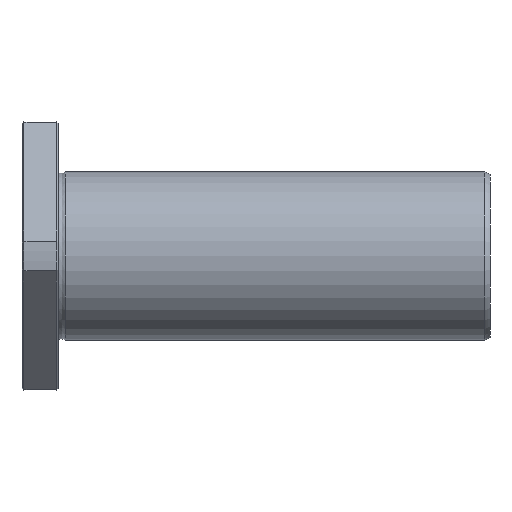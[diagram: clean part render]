
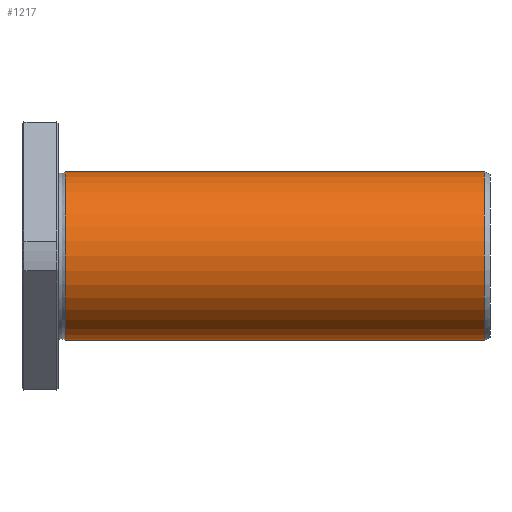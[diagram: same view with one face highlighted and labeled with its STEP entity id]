
A CAD part, front view. The second image highlights one B-rep face of the part: STEP entity #1217.
In plain terms, the highlighted cylindrical face has radius 30 mm (diameter 60 mm), a full revolution.
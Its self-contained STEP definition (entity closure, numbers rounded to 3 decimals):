
#1183=CARTESIAN_POINT('',(165.016,0.0,30.));
#1184=VERTEX_POINT('',#1183);
#1185=CARTESIAN_POINT('',(165.016,0.0,0.0));
#1186=DIRECTION('',(-1.0,0.0,0.0));
#1187=DIRECTION('',(0.0,0.0,1.0));
#1188=AXIS2_PLACEMENT_3D('',#1185,#1186,#1187);
#1189=CIRCLE('',#1188,30.);
#1190=EDGE_CURVE('',#1184,#1184,#1189,.T.);
#1198=CARTESIAN_POINT('',(90.208,0.0,0.0));
#1199=DIRECTION('',(-1.0,0.0,0.0));
#1200=DIRECTION('',(0.0,0.0,1.0));
#1201=AXIS2_PLACEMENT_3D('',#1198,#1199,#1200);
#1202=CYLINDRICAL_SURFACE('',#1201,30.);
#1203=CARTESIAN_POINT('',(15.4,0.0,30.0));
#1204=VERTEX_POINT('',#1203);
#1205=CARTESIAN_POINT('',(15.4,0.0,0.0));
#1206=DIRECTION('',(-1.0,0.0,0.0));
#1207=DIRECTION('',(0.0,0.0,1.0));
#1208=AXIS2_PLACEMENT_3D('',#1205,#1206,#1207);
#1209=CIRCLE('',#1208,30.0);
#1210=EDGE_CURVE('',#1204,#1204,#1209,.T.);
#1211=ORIENTED_EDGE('',*,*,#1210,.F.);
#1212=EDGE_LOOP('',(#1211));
#1213=FACE_OUTER_BOUND('',#1212,.T.);
#1214=ORIENTED_EDGE('',*,*,#1190,.T.);
#1215=EDGE_LOOP('',(#1214));
#1216=FACE_BOUND('',#1215,.T.);
#1217=ADVANCED_FACE('',(#1213,#1216),#1202,.T.);
